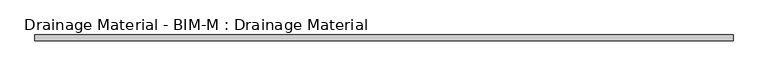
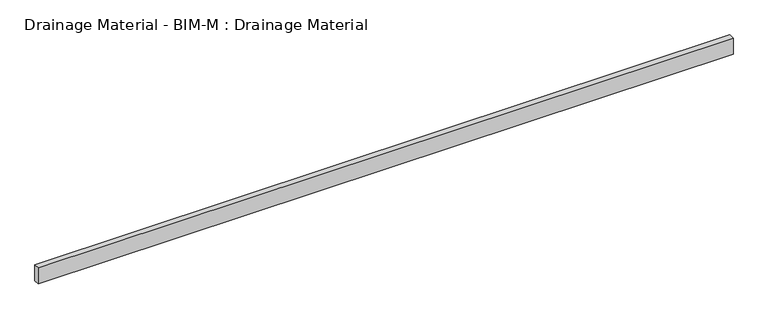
"""IFC4 building model written with IfcOpenShell, lengths in millimetres: proxy geometry, Drainage Material - BIM-M : Drainage Material."""

from ifc_helpers import new_model, si_unit, origin, origin_with_axes, place, context, project, spatial, polyline, outline, extrude, source, transform, mapped, element, save


def drainage_material_bim_m_drainage_material_b4647fba(model_context):
    return source(origin(), model_context, "Body", "SweptSolid", [
        extrude(outline(polyline([(3114.730744, 22.225), (3114.730744, -28.575), (-3114.730744, -28.575), (-3114.730744, 22.225), (3114.730744, 22.225)])), origin_with_axes(), (0.0, 0.0, 1.0), 152.4),
    ])


if __name__ == "__main__":
    model = new_model("IFC4")
    model_context = context("Model", 3, world=origin())
    ifc_project = project(units=[si_unit("LENGTHUNIT", "METRE", prefix="MILLI")], contexts=[model_context])
    site = spatial("IfcSite", under=ifc_project)
    building = spatial("IfcBuilding", under=site)
    placement = place(None, origin())
    drainage_material_bim_m_drainage_material_shape = drainage_material_bim_m_drainage_material_b4647fba(model_context)
    element("IfcBuildingElementProxy", 1, Name="Drainage Material - BIM-M : Drainage Material", ObjectType="Drainage Material - BIM-M : Drainage Material", at=placement, inside=building, context=model_context, shape_type="MappedRepresentation", body=[
        mapped(drainage_material_bim_m_drainage_material_shape, transform((0.0, 0.0, 0.0), x_axis=(1.0, 0.0, 0.0), y_axis=(0.0, 1.0, 0.0), z_axis=(0.0, 0.0, 1.0))),
    ])
    save(model, "model.ifc")
